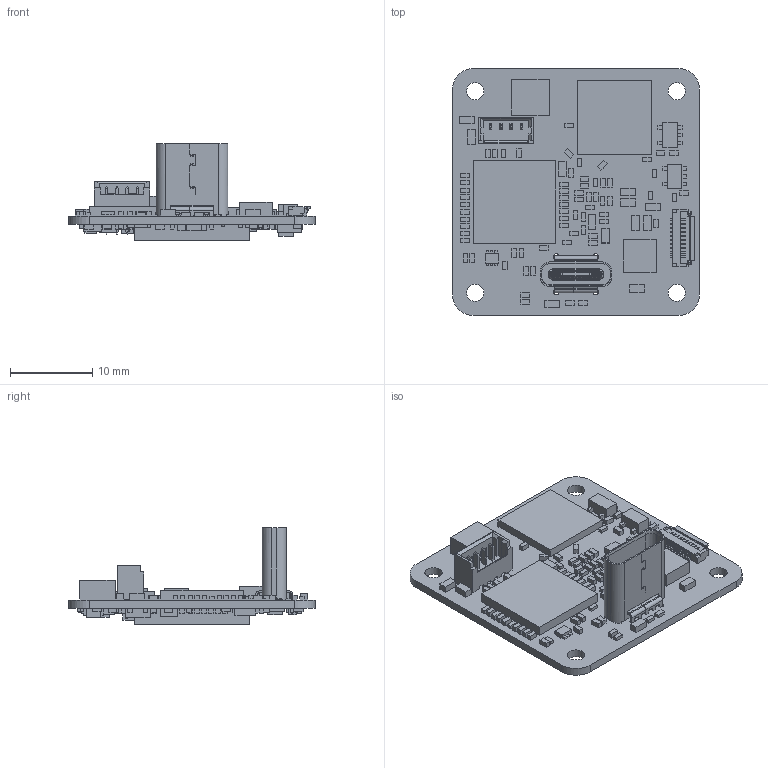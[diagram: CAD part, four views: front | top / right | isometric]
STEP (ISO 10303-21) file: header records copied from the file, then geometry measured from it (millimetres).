
FILE_DESCRIPTION(('Open CASCADE Model'),'2;1');
FILE_NAME('Open CASCADE Shape Model','2017-12-07T15:17:12',('Author'),( 'Open CASCADE'),'Open CASCADE STEP processor 6.8','Open CASCADE 6.8' ,'Unknown');
FILE_SCHEMA(('AUTOMOTIVE_DESIGN { 1 0 10303 214 1 1 1 1 }'));
Products named in the file (1): PCB
Bounding box: 30 x 30.01 x 11.76 mm (x, y, z)
Volume: 1856.4 mm3; surface area: 4658.3 mm2
Topology: 218 solids, 218 shells, 2780 faces, 6801 edges, 4498 vertices
Faces by surface type: plane 2506, cylinder 254, cone 20
Full cylindrical faces by diameter (mm): 0.5 x4, 0.66 x1, 0.7 x4, 2.1 x4
Entity records: 81723 total; most frequent: CARTESIAN_POINT 14416, ORIENTED_EDGE 13572, DIRECTION 12834, EDGE_CURVE 6786, LINE 6218, VECTOR 6218, VERTEX_POINT 4468, AXIS2_PLACEMENT_3D 3308
